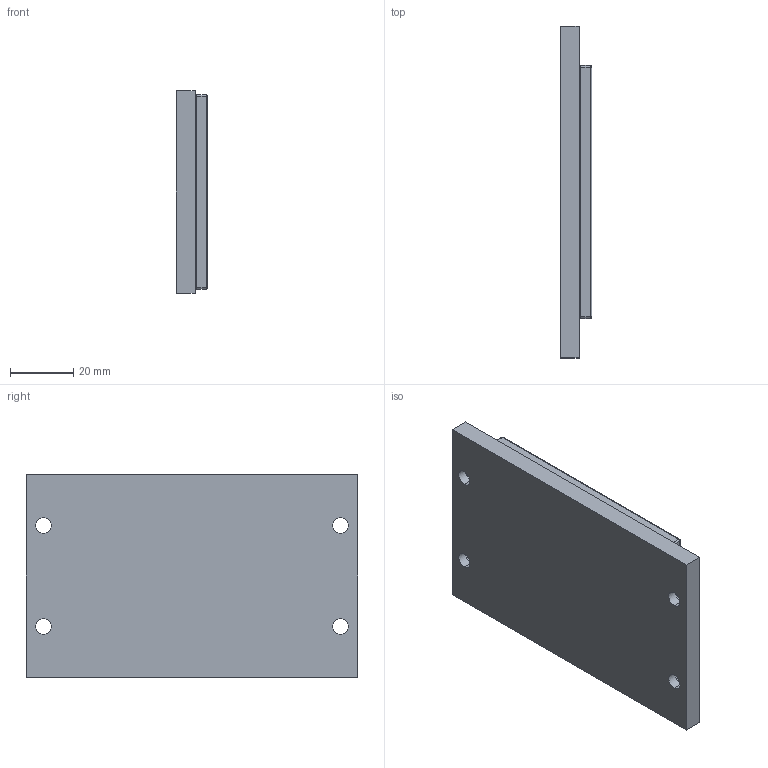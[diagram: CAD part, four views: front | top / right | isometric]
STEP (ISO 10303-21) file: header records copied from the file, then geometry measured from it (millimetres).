
FILE_DESCRIPTION (( 'STEP AP214' ), '1' );
FILE_NAME ('PIXM080-TL064-NC.STEP', '2020-07-30T01:55:42', ( '' ), ( '' ), 'SwSTEP 2.0', 'SolidWorks 2016', '' );
FILE_SCHEMA (( 'AUTOMOTIVE_DESIGN' ));
Length unit declared in the file: inch
Products named in the file (3): 001SM080000001-CUSTOMER_TL064; 001SM080LXXX01_TL64; PIXM080-TL064-NC
Assembly tree (2 placements, depth 2):
  PIXM080-TL064-NC
    001SM080LXXX01_TL64
    001SM080000001-CUSTOMER_TL064
Bounding box: 10 x 105 x 64 mm (x, y, z)
Volume: 59051.8 mm3; surface area: 26670.8 mm2
Topology: 2 solids, 2 shells, 63 faces, 146 edges, 84 vertices
Faces by surface type: cylinder 28, plane 27, bspline 8
Entity records: 2763 total; most frequent: CARTESIAN_POINT 410, DIRECTION 314, ORIENTED_EDGE 276, EDGE_CURVE 138, AXIS2_PLACEMENT_3D 116, VERTEX_POINT 84, LINE 82, VECTOR 82
